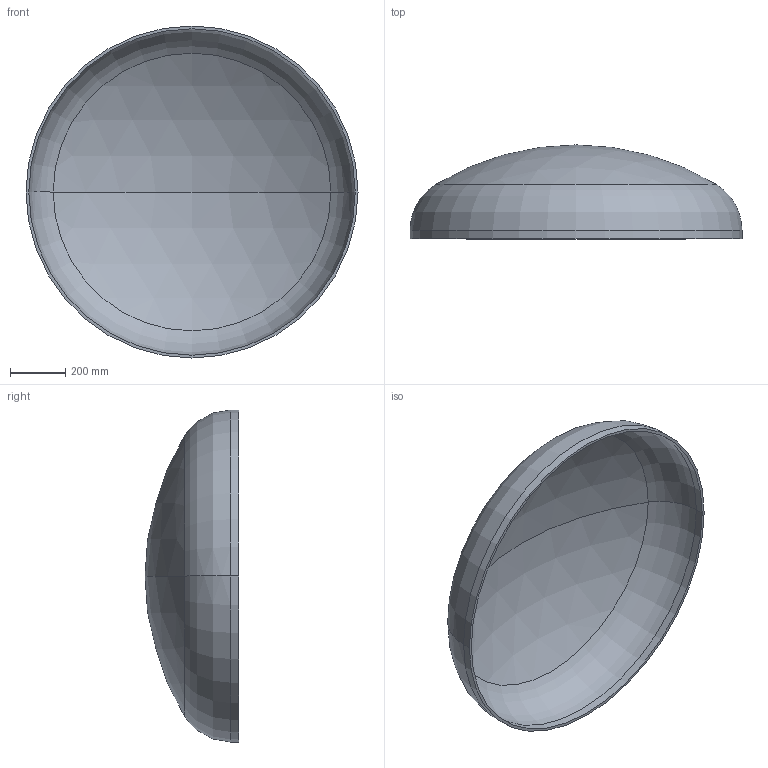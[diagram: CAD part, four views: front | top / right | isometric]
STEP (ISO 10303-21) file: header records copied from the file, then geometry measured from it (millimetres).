
FILE_DESCRIPTION (( 'STEP AP203' ), '1' );
FILE_NAME ('DIN 28013 Korbbogenform_-_Boden DIN 28013 - 1200 x 30 - I - s=10.step', '2016-07-01T09:20:32', ( '' ), ( '' ), 'SwSTEP 2.0', 'SolidWorks 2013', '' );
FILE_SCHEMA (( 'CONFIG_CONTROL_DESIGN' ));
Length unit declared in the file: millimetre
Products named in the file (1): DIN 28013 Korbbogenform_-_Boden DIN 28013 - 1200 x 30 - I - s=10
Bounding box: 1200 x 339.24 x 1200 mm (x, y, z)
Volume: 16617052.3 mm3; surface area: 3361003.6 mm2
Topology: 1 solids, 1 shells, 13 faces, 24 edges, 14 vertices
Faces by surface type: torus 4, cylinder 4, sphere 4, plane 1
Entity records: 407 total; most frequent: DIRECTION 72, CARTESIAN_POINT 52, ORIENTED_EDGE 48, AXIS2_PLACEMENT_3D 34, EDGE_CURVE 24, CIRCLE 20, EDGE_LOOP 14, VERTEX_POINT 14
